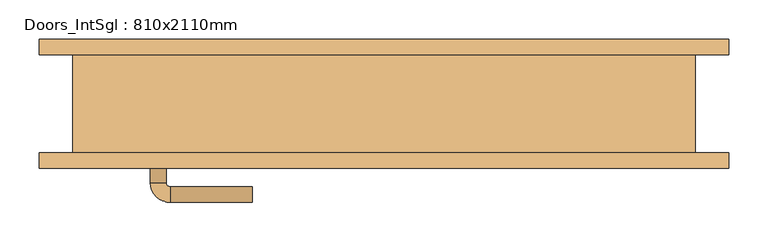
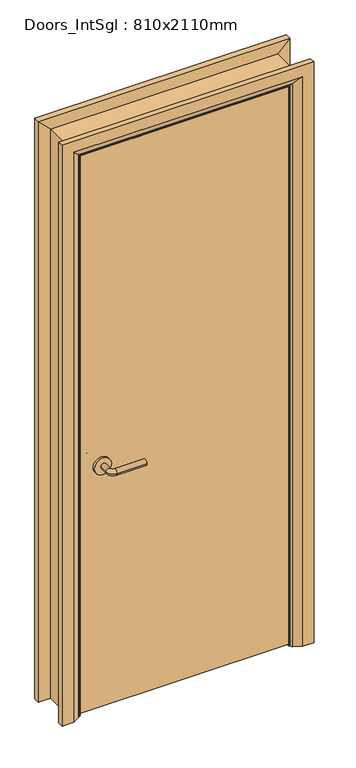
"""IFC4 building model written with IfcOpenShell, lengths in millimetres: door geometry, Doors_IntSgl : 810x2110mm."""

from ifc_helpers import new_model, si_unit, point, frame, frame_2d, origin, place, context, project, spatial, polyline, circle_curve, ellipse_curve, trimmed, segment, composite_curve, outline, extrude, faceted_brep, source, transform, mapped, element, save
from ifc_brep_helpers import plane_surface, cylinder_surface, revolved_surface, advanced_brep


def doors_intsgl_810x2110mm_5ef26f82(model_context):
    return source(origin(), model_context, "Body", "SolidModel", [
        advanced_brep(
        [(-298.0, -16.5, 900.0), (-278.0, -16.5, 900.0), (-298.0, 13.5, 900.0), (-278.0, 13.5, 900.0), (-273.0, 18.5, 900.0), (-273.0, 38.5, 900.0), (-168.0, 38.5, 900.0), (-168.0, 18.5, 900.0)],
        [
            (0, 1, circle_curve(frame((-288.0, -16.5, 900.0), z_axis=(0.0, -1.0, 0.0), x_axis=(1.0, 0.0, 0.0)), 10.0)),
            (1, 0, circle_curve(frame((-288.0, -16.5, 900.0), z_axis=(0.0, -1.0, 0.0), x_axis=(1.0, 0.0, 0.0)), 10.0)),
            (0, 2),
            (2, 3, circle_curve(frame((-288.0, 13.5, 900.0), z_axis=(0.0, -1.0, 0.0), x_axis=(1.0, 0.0, 0.0)), 10.0)),
            (3, 1),
            (3, 2, circle_curve(frame((-288.0, 13.5, 900.0), z_axis=(0.0, -1.0, 0.0), x_axis=(1.0, 0.0, 0.0)), 10.0)),
            (4, 3, circle_curve(frame((-273.0, 13.5, 900.0), z_axis=(0.0, 0.0, 1.0), x_axis=(-1.0, 0.0, 0.0)), 5.0)),
            (2, 5, circle_curve(frame((-273.0, 13.5, 900.0), z_axis=(0.0, 0.0, -1.0), x_axis=(-1.0, 0.0, 0.0)), 25.0)),
            (5, 4, circle_curve(frame((-273.0, 28.5, 900.0), z_axis=(-1.0, 0.0, 0.0), x_axis=(0.0, -1.0, 0.0)), 10.0)),
            (4, 5, circle_curve(frame((-273.0, 28.5, 900.0), z_axis=(-1.0, 0.0, 0.0), x_axis=(0.0, -1.0, 0.0)), 10.0)),
            (6, 7, circle_curve(frame((-168.0, 28.5, 900.0), z_axis=(1.0, 0.0, 0.0), x_axis=(0.0, -1.0, 0.0)), 10.0)),
            (7, 6, circle_curve(frame((-168.0, 28.5, 900.0), z_axis=(1.0, 0.0, 0.0), x_axis=(0.0, -1.0, 0.0)), 10.0)),
            (5, 6),
            (7, 4),
        ],
        [
            plane_surface(frame((-288.0, -16.5, 900.0), z_axis=(0.0, -1.0, 0.0), x_axis=(0.0, 0.0, 1.0))),
            cylinder_surface(frame((-288.0, -16.5, 900.0), z_axis=(0.0, -1.0, 0.0), x_axis=(1.0, 0.0, 0.0)), 10.0),
            revolved_surface(trimmed(ellipse_curve(frame((-288.0, 13.5, 900.0), z_axis=(0.0, -1.0, 0.0), x_axis=(1.0, 0.0, 0.0)), 10.0, 10.0), [point((-298.0, 13.5, 900.0))], [point((-278.0, 13.5, 900.0))], True, "CARTESIAN"), (-273.0, 13.5, 900.0), (0.0, 0.0, -1.0)),
            revolved_surface(trimmed(ellipse_curve(frame((-288.0, 13.5, 900.0), z_axis=(0.0, -1.0, 0.0), x_axis=(1.0, 0.0, 0.0)), 10.0, 10.0), [point((-278.0, 13.5, 900.0))], [point((-298.0, 13.5, 900.0))], True, "CARTESIAN"), (-273.0, 13.5, 900.0), (0.0, 0.0, -1.0)),
            plane_surface(frame((-168.0, 28.5, 900.0), z_axis=(1.0, 0.0, 0.0), x_axis=(0.0, 0.0, 1.0))),
            cylinder_surface(frame((-273.0, 28.5, 900.0), z_axis=(-1.0, 0.0, 0.0), x_axis=(0.0, -1.0, 0.0)), 10.0),
        ],
        [
            (0, [[1, 2]]),
            (1, [[-1, 3, 4, 5]]),
            (1, [[-2, -5, 6, -3]]),
            (2, [[7, -4, 8, 9]]),
            (3, [[-8, -6, -7, 10]]),
            (4, [[11, 12]]),
            (5, [[-9, 13, -12, 14]]),
            (5, [[-10, -14, -11, -13]]),
        ],
    ),
        extrude(outline(composite_curve([segment(trimmed(circle_curve(frame_2d((900.0, -290.5)), 30.0), [point((900.0, -320.5))], [point((900.0, -260.5))], False, "CARTESIAN"), True, "CONTINUOUS"), segment(trimmed(circle_curve(frame_2d((900.0, -290.5)), 30.0), [point((900.0, -260.5))], [point((900.0, -320.5))], False, "CARTESIAN"), True, "CONTINUOUS")], self_intersect=False)), frame((0.0, -24.5, 0.0), z_axis=(0.0, 1.0, 0.0), x_axis=(0.0, 0.0, 1.0)), (0.0, 0.0, 1.0), 8.0),
        advanced_brep(
        [(-298.0, -70.5, 900.0), (-278.0, -70.5, 900.0), (-278.0, -100.5, 900.0), (-298.0, -100.5, 900.0), (-273.0, -105.5, 900.0), (-273.0, -125.5, 900.0), (-168.0, -125.5, 900.0), (-168.0, -105.5, 900.0)],
        [
            (0, 1, circle_curve(frame((-288.0, -70.5, 900.0), z_axis=(0.0, 1.0, 0.0), x_axis=(1.0, 0.0, 0.0)), 10.0)),
            (1, 0, circle_curve(frame((-288.0, -70.5, 900.0), z_axis=(0.0, 1.0, 0.0), x_axis=(1.0, 0.0, 0.0)), 10.0)),
            (1, 2),
            (2, 3, circle_curve(frame((-288.0, -100.5, 900.0), z_axis=(0.0, 1.0, 0.0), x_axis=(1.0, 0.0, 0.0)), 10.0)),
            (3, 0),
            (3, 2, circle_curve(frame((-288.0, -100.5, 900.0), z_axis=(0.0, 1.0, 0.0), x_axis=(1.0, 0.0, 0.0)), 10.0)),
            (4, 5, circle_curve(frame((-273.0, -115.5, 900.0), z_axis=(-1.0, 0.0, 0.0), x_axis=(0.0, 1.0, 0.0)), 10.0)),
            (5, 3, circle_curve(frame((-273.0, -100.5, 900.0), z_axis=(0.0, 0.0, -1.0), x_axis=(-1.0, 0.0, 0.0)), 25.0)),
            (2, 4, circle_curve(frame((-273.0, -100.5, 900.0), z_axis=(0.0, 0.0, 1.0), x_axis=(-1.0, 0.0, 0.0)), 5.0)),
            (5, 4, circle_curve(frame((-273.0, -115.5, 900.0), z_axis=(-1.0, 0.0, 0.0), x_axis=(0.0, 1.0, 0.0)), 10.0)),
            (6, 7, circle_curve(frame((-168.0, -115.5, 900.0), z_axis=(1.0, 0.0, 0.0), x_axis=(0.0, 1.0, 0.0)), 10.0)),
            (7, 6, circle_curve(frame((-168.0, -115.5, 900.0), z_axis=(1.0, 0.0, 0.0), x_axis=(0.0, 1.0, 0.0)), 10.0)),
            (4, 7),
            (6, 5),
        ],
        [
            plane_surface(frame((-288.0, -70.5, 900.0), z_axis=(0.0, 1.0, 0.0), x_axis=(0.0, 0.0, 1.0))),
            cylinder_surface(frame((-288.0, -70.5, 900.0), z_axis=(0.0, 1.0, 0.0), x_axis=(1.0, 0.0, 0.0)), 10.0),
            revolved_surface(trimmed(ellipse_curve(frame((-288.0, -100.5, 900.0), z_axis=(0.0, -1.0, 0.0), x_axis=(1.0, 0.0, 0.0)), 10.0, 10.0), [point((-298.0, -100.5, 900.0))], [point((-278.0, -100.5, 900.0))], True, "CARTESIAN"), (-273.0, -100.5, 900.0), (0.0, 0.0, -1.0)),
            revolved_surface(trimmed(ellipse_curve(frame((-288.0, -100.5, 900.0), z_axis=(0.0, -1.0, 0.0), x_axis=(1.0, 0.0, 0.0)), 10.0, 10.0), [point((-278.0, -100.5, 900.0))], [point((-298.0, -100.5, 900.0))], True, "CARTESIAN"), (-273.0, -100.5, 900.0), (0.0, 0.0, -1.0)),
            plane_surface(frame((-168.0, -115.5, 900.0), z_axis=(1.0, 0.0, 0.0), x_axis=(0.0, 0.0, 1.0))),
            cylinder_surface(frame((-273.0, -115.5, 900.0), z_axis=(-1.0, 0.0, 0.0), x_axis=(0.0, 1.0, 0.0)), 10.0),
        ],
        [
            (0, [[1, 2]]),
            (1, [[3, 4, 5, -2]]),
            (1, [[-5, 6, -3, -1]]),
            (2, [[7, 8, -4, 9]]),
            (3, [[10, -9, -6, -8]]),
            (4, [[11, 12]]),
            (5, [[13, -11, 14, -7]]),
            (5, [[-14, -12, -13, -10]]),
        ],
    ),
        extrude(outline(composite_curve([segment(trimmed(circle_curve(frame_2d((900.0, -290.5)), 30.0), [point((900.0, -320.5))], [point((900.0, -260.5))], False, "CARTESIAN"), True, "CONTINUOUS"), segment(trimmed(circle_curve(frame_2d((900.0, -290.5)), 30.0), [point((900.0, -260.5))], [point((900.0, -320.5))], False, "CARTESIAN"), True, "CONTINUOUS")], self_intersect=False)), frame((0.0, -70.5, 0.0), z_axis=(0.0, 1.0, 0.0), x_axis=(0.0, 0.0, 1.0)), (0.0, 0.0, 1.0), 8.0),
        extrude(outline(polyline([(363.0, -24.5), (363.0, -62.5), (-363.0, -62.5), (-363.0, -24.5), (363.0, -24.5)])), frame((0.0, 0.0, 8.0), z_axis=(0.0, 0.0, 1.0), x_axis=(1.0, 0.0, 0.0)), (0.0, 0.0, 1.0), 2060.0),
        advanced_brep(
        [(440.0, -82.5, 0.0), (400.0, -82.5, 0.0), (374.0, -68.5, 0.0), (370.0, -62.5, 0.0), (440.0, -62.5, 0.0), (440.0, -62.5, 2145.0), (440.0, -82.5, 2145.0), (370.0, -62.5, 2075.0), (-370.0, -62.5, 2075.0), (-370.0, -62.5, 0.0), (-440.0, -62.5, 0.0), (-440.0, -62.5, 2145.0), (374.0, -68.5, 2079.0), (400.0, -82.5, 2105.0), (-440.0, -82.5, 2145.0), (-440.0, -82.5, 0.0), (-400.0, -82.5, 0.0), (-400.0, -82.5, 2105.0), (-374.0, -68.5, 2079.0), (-374.0, -68.5, 0.0)],
        [
            (0, 1),
            (1, 2),
            (2, 3, circle_curve(frame((378.0, -61.5, 0.0), z_axis=(0.0, 0.0, -1.0), x_axis=(1.0, 0.0, 0.0)), 8.0622577)),
            (3, 4),
            (4, 0),
            (4, 5),
            (5, 6),
            (6, 0),
            (3, 7),
            (7, 8),
            (8, 9),
            (9, 10),
            (10, 11),
            (11, 5),
            (2, 12),
            (12, 7, ellipse_curve(frame((378.0, -61.5, 2083.0), z_axis=(0.7071067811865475, 0.0, -0.7071067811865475), x_axis=(-0.7071067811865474, 0.0, -0.7071067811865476)), 11.4017543, 8.0622577)),
            (1, 13),
            (13, 12),
            (6, 14),
            (14, 15),
            (15, 16),
            (16, 17),
            (17, 13),
            (11, 14),
            (12, 18),
            (18, 8, ellipse_curve(frame((-378.0, -61.5, 2083.0), z_axis=(0.7071067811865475, 0.0, 0.7071067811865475), x_axis=(0.7071067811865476, 0.0, -0.7071067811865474)), 11.4017543, 8.0622577)),
            (17, 18),
            (15, 10),
            (9, 19, circle_curve(frame((-378.0, -61.5, 0.0), z_axis=(0.0, 0.0, -1.0), x_axis=(-1.0, 0.0, 0.0)), 8.0622577)),
            (19, 16),
            (18, 19),
        ],
        [
            plane_surface(frame((370.0, -62.5, 0.0), z_axis=(0.0, 0.0, -1.0), x_axis=(0.0, 1.0, 0.0))),
            plane_surface(frame((440.0, -82.5, 0.0), z_axis=(1.0, 0.0, 0.0), x_axis=(0.0, 0.0, 1.0))),
            plane_surface(frame((440.0, -62.5, 0.0), z_axis=(0.0, 1.0, 0.0), x_axis=(0.0, 0.0, 1.0))),
            cylinder_surface(frame((378.0, -61.5, 0.0), z_axis=(0.0, 0.0, -1.0), x_axis=(1.0, 0.0, 0.0)), 8.0622577),
            plane_surface(frame((374.0, -68.5, 0.0), z_axis=(-0.4740998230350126, -0.880471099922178, 0.0), x_axis=(0.0, 0.0, 1.0))),
            plane_surface(frame((400.0, -82.5, 0.0), z_axis=(0.0, -1.0, 0.0), x_axis=(0.0, 0.0, 1.0))),
            plane_surface(frame((440.0, -82.5, 2145.0), z_axis=(0.0, 0.0, 1.0), x_axis=(-1.0, 0.0, 0.0))),
            cylinder_surface(frame((370.0, -61.5, 2083.0), z_axis=(1.0, 0.0, 0.0), x_axis=(0.0, 0.0, 1.0)), 8.0622577),
            plane_surface(frame((374.0, -68.5, 2079.0), z_axis=(0.0, -0.8804710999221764, -0.4740998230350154), x_axis=(-1.0, 0.0, 0.0))),
            plane_surface(frame((-370.0, -62.5, 0.0), z_axis=(0.0, 0.0, -1.0), x_axis=(0.0, 1.0, 0.0))),
            plane_surface(frame((-440.0, -82.5, 2145.0), z_axis=(-1.0, 0.0, 0.0), x_axis=(0.0, 0.0, -1.0))),
            cylinder_surface(frame((-378.0, -61.5, 2075.0), z_axis=(0.0, 0.0, 1.0), x_axis=(-1.0, 0.0, 0.0)), 8.0622577),
            plane_surface(frame((-374.0, -68.5, 2079.0), z_axis=(0.47409982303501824, -0.8804710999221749, 0.0), x_axis=(0.0, 0.0, -1.0))),
        ],
        [
            (0, [[1, 2, 3, 4, 5]]),
            (1, [[6, 7, 8, -5]]),
            (2, [[9, 10, 11, 12, 13, 14, -6, -4]]),
            (3, [[15, 16, -9, -3]]),
            (4, [[17, 18, -15, -2]]),
            (5, [[-8, 19, 20, 21, 22, 23, -17, -1]]),
            (6, [[-14, 24, -19, -7]]),
            (7, [[25, 26, -10, -16]]),
            (8, [[-23, 27, -25, -18]]),
            (9, [[28, -12, 29, 30, -21]]),
            (10, [[-13, -28, -20, -24]]),
            (11, [[31, -29, -11, -26]]),
            (12, [[-22, -30, -31, -27]]),
        ],
    ),
        extrude(outline(polyline([(0.0, -346.0), (2051.0, -346.0), (2051.0, 346.0), (0.0, 346.0), (0.0, 365.0), (2070.0, 365.0), (2070.0, -365.0), (0.0, -365.0), (0.0, -346.0)])), frame((0.0, -22.5, 0.0), z_axis=(0.0, 1.0, 0.0), x_axis=(0.0, 0.0, 1.0)), (0.0, 0.0, 1.0), 32.0),
        advanced_brep(
        [(-440.0, 82.5, 0.0), (-400.0, 82.5, 0.0), (-374.0, 68.5, 0.0), (-370.0, 62.5, 0.0), (-440.0, 62.5, 0.0), (-440.0, 62.5, 2145.0), (-440.0, 82.5, 2145.0), (-370.0, 62.5, 2075.0), (-374.0, 68.5, 2079.0), (-400.0, 82.5, 2105.0), (440.0, 62.5, 2145.0), (440.0, 82.5, 2145.0), (370.0, 62.5, 2075.0), (374.0, 68.5, 2079.0), (400.0, 82.5, 2105.0), (440.0, 82.5, 0.0), (440.0, 62.5, 0.0), (370.0, 62.5, 0.0), (374.0, 68.5, 0.0), (400.0, 82.5, 0.0)],
        [
            (0, 1),
            (1, 2),
            (2, 3, circle_curve(frame((-378.0, 61.5, 0.0), z_axis=(0.0, 0.0, -1.0), x_axis=(-1.0, 0.0, 0.0)), 8.0622577)),
            (3, 4),
            (4, 0),
            (4, 5),
            (5, 6),
            (6, 0),
            (3, 7),
            (7, 5),
            (2, 8),
            (8, 7, ellipse_curve(frame((-378.0, 61.5, 2083.0), z_axis=(-0.7071067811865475, 0.0, -0.7071067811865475), x_axis=(0.7071067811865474, 0.0, -0.7071067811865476)), 11.4017543, 8.0622577)),
            (1, 9),
            (9, 8),
            (6, 9),
            (5, 10),
            (10, 11),
            (11, 6),
            (7, 12),
            (12, 10),
            (8, 13),
            (13, 12, ellipse_curve(frame((378.0, 61.5, 2083.0), z_axis=(-0.7071067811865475, 0.0, 0.7071067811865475), x_axis=(-0.7071067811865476, 0.0, -0.7071067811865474)), 11.4017543, 8.0622577)),
            (9, 14),
            (14, 13),
            (11, 14),
            (15, 16),
            (16, 17),
            (17, 18, circle_curve(frame((378.0, 61.5, 0.0), z_axis=(0.0, 0.0, -1.0), x_axis=(1.0, 0.0, 0.0)), 8.0622577)),
            (18, 19),
            (19, 15),
            (10, 16),
            (15, 11),
            (12, 17),
            (13, 18),
            (14, 19),
        ],
        [
            plane_surface(frame((-370.0, 135.3010989, 0.0), z_axis=(0.0, 0.0, -1.0), x_axis=(1.0, 0.0, 0.0))),
            plane_surface(frame((-440.0, 82.5, 0.0), z_axis=(-1.0, 0.0, 0.0), x_axis=(0.0, 0.0, 1.0))),
            plane_surface(frame((-440.0, 62.5, 0.0), z_axis=(0.0, -1.0, 0.0), x_axis=(0.0, 0.0, 1.0))),
            cylinder_surface(frame((-378.0, 61.5, 0.0), z_axis=(0.0, 0.0, -1.0), x_axis=(-1.0, 0.0, 0.0)), 8.0622577),
            plane_surface(frame((-374.0, 68.5, 0.0), z_axis=(0.4740998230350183, 0.8804710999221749, 0.0), x_axis=(0.0, 0.0, 1.0))),
            plane_surface(frame((-400.0, 82.5, 0.0), z_axis=(0.0, 1.0, 0.0), x_axis=(0.0, 0.0, 1.0))),
            plane_surface(frame((-440.0, 82.5, 2145.0), z_axis=(0.0, 0.0, 1.0), x_axis=(1.0, 0.0, 0.0))),
            plane_surface(frame((-440.0, 62.5, 2145.0), z_axis=(0.0, -1.0, 0.0), x_axis=(1.0, 0.0, 0.0))),
            cylinder_surface(frame((-370.0, 61.5, 2083.0), z_axis=(-1.0, 0.0, 0.0), x_axis=(0.0, 0.0, 1.0)), 8.0622577),
            plane_surface(frame((-374.0, 68.5, 2079.0), z_axis=(0.0, 0.8804710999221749, -0.4740998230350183), x_axis=(1.0, 0.0, 0.0))),
            plane_surface(frame((-400.0, 82.5, 2105.0), z_axis=(0.0, 1.0, 0.0), x_axis=(1.0, 0.0, 0.0))),
            plane_surface(frame((370.0, 135.3010989, 0.0), z_axis=(0.0, 0.0, -1.0), x_axis=(-1.0, 0.0, 0.0))),
            plane_surface(frame((440.0, 82.5, 2145.0), z_axis=(1.0, 0.0, 0.0), x_axis=(0.0, 0.0, -1.0))),
            plane_surface(frame((440.0, 62.5, 2145.0), z_axis=(0.0, -1.0, 0.0), x_axis=(0.0, 0.0, -1.0))),
            cylinder_surface(frame((378.0, 61.5, 2075.0), z_axis=(0.0, 0.0, 1.0), x_axis=(1.0, 0.0, 0.0)), 8.0622577),
            plane_surface(frame((374.0, 68.5, 2079.0), z_axis=(-0.4740998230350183, 0.8804710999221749, 0.0), x_axis=(0.0, 0.0, -1.0))),
            plane_surface(frame((400.0, 82.5, 2105.0), z_axis=(0.0, 1.0, 0.0), x_axis=(0.0, 0.0, -1.0))),
        ],
        [
            (0, [[1, 2, 3, 4, 5]]),
            (1, [[6, 7, 8, -5]]),
            (2, [[9, 10, -6, -4]]),
            (3, [[11, 12, -9, -3]]),
            (4, [[13, 14, -11, -2]]),
            (5, [[-8, 15, -13, -1]]),
            (6, [[16, 17, 18, -7]]),
            (7, [[19, 20, -16, -10]]),
            (8, [[21, 22, -19, -12]]),
            (9, [[23, 24, -21, -14]]),
            (10, [[-18, 25, -23, -15]]),
            (11, [[26, 27, 28, 29, 30]]),
            (12, [[31, -26, 32, -17]]),
            (13, [[33, -27, -31, -20]]),
            (14, [[34, -28, -33, -22]]),
            (15, [[35, -29, -34, -24]]),
            (16, [[-32, -30, -35, -25]]),
        ],
    ),
        faceted_brep([(-365.0, -62.5, 0.0), (-397.0, -62.5, 0.0), (-397.0, 62.5, 0.0), (-365.0, 62.5, 0.0), (-365.0, 62.5, 2070.0), (-365.0, -62.5, 2070.0), (-397.0, 62.5, 2102.0), (-397.0, -62.5, 2102.0), (365.0, 62.5, 2070.0), (365.0, -62.5, 2070.0), (397.0, 62.5, 2102.0), (397.0, -62.5, 2102.0), (365.0, -62.5, 0.0), (365.0, 62.5, 0.0), (397.0, 62.5, 0.0), (397.0, -62.5, 0.0)], [[[0, 1, 2, 3]], [[3, 4, 5, 0]], [[2, 6, 4, 3]], [[1, 7, 6, 2]], [[0, 5, 7, 1]], [[4, 8, 9, 5]], [[6, 10, 8, 4]], [[7, 11, 10, 6]], [[5, 9, 11, 7]], [[12, 13, 14, 15]], [[8, 13, 12, 9]], [[10, 14, 13, 8]], [[11, 15, 14, 10]], [[9, 12, 15, 11]]]),
    ])


if __name__ == "__main__":
    model = new_model("IFC4")
    model_context = context("Model", 3, world=origin())
    ifc_project = project(units=[si_unit("LENGTHUNIT", "METRE", prefix="MILLI")], contexts=[model_context])
    site = spatial("IfcSite", under=ifc_project)
    building = spatial("IfcBuilding", under=site)
    placement = place(None, origin())
    doors_intsgl_810x2110mm_shape = doors_intsgl_810x2110mm_5ef26f82(model_context)
    element("IfcDoor", 1, ObjectType="Doors_IntSgl : 810x2110mm", at=placement, inside=building, context=model_context, shape_type="MappedRepresentation", body=[
        mapped(doors_intsgl_810x2110mm_shape, transform((0.0, 0.0, 0.0), x_axis=(1.0, 0.0, 0.0), y_axis=(0.0, 1.0, 0.0), z_axis=(0.0, 0.0, 1.0))),
    ])
    save(model, "model.ifc")
